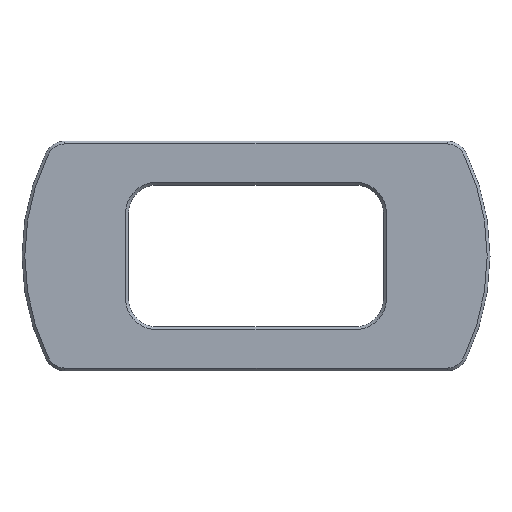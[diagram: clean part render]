
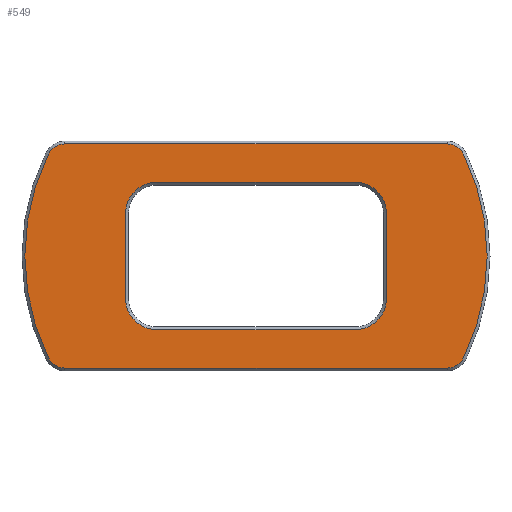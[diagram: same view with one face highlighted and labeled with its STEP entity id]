
A CAD part, top view. The second image highlights one B-rep face of the part: STEP entity #549.
In plain terms, the highlighted planar face has unit normal (0, 0, 1).
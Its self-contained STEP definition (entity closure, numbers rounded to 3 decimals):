
#40=CARTESIAN_POINT('Vertex',(-13.47,7.9,0.)) ;
#56=CARTESIAN_POINT('Vertex',(-14.637,7.172,0.)) ;
#59=CARTESIAN_POINT('Axis2P3D Location',(-13.47,6.6,0.)) ;
#87=CARTESIAN_POINT('Vertex',(-14.637,-7.172,0.)) ;
#90=CARTESIAN_POINT('Axis2P3D Location',(0.,0.,0.)) ;
#118=CARTESIAN_POINT('Vertex',(-13.47,-7.9,0.)) ;
#121=CARTESIAN_POINT('Axis2P3D Location',(-13.47,-6.6,0.)) ;
#138=CARTESIAN_POINT('Line Origine',(-8.25,-7.9,0.)) ;
#142=CARTESIAN_POINT('Vertex',(13.47,-7.9,0.)) ;
#176=CARTESIAN_POINT('Line Origine',(-8.25,7.9,0.)) ;
#180=CARTESIAN_POINT('Vertex',(13.47,7.9,0.)) ;
#449=CARTESIAN_POINT('Axis2P3D Location',(0.,0.,0.)) ;
#454=CARTESIAN_POINT('Axis2P3D Location',(13.47,-6.6,0.)) ;
#458=CARTESIAN_POINT('Vertex',(14.637,-7.172,0.)) ;
#461=CARTESIAN_POINT('Axis2P3D Location',(0.,0.,0.)) ;
#465=CARTESIAN_POINT('Vertex',(14.637,7.172,0.)) ;
#468=CARTESIAN_POINT('Axis2P3D Location',(13.47,6.6,0.)) ;
#483=CARTESIAN_POINT('Line Origine',(0.,5.2,0.)) ;
#487=CARTESIAN_POINT('Vertex',(7.,5.2,0.)) ;
#489=CARTESIAN_POINT('Vertex',(-7.,5.2,0.)) ;
#492=CARTESIAN_POINT('Axis2P3D Location',(7.,3.,0.)) ;
#496=CARTESIAN_POINT('Vertex',(9.2,3.,0.)) ;
#499=CARTESIAN_POINT('Line Origine',(9.2,0.,0.)) ;
#503=CARTESIAN_POINT('Vertex',(9.2,-3.,0.)) ;
#506=CARTESIAN_POINT('Axis2P3D Location',(7.,-3.,0.)) ;
#510=CARTESIAN_POINT('Vertex',(7.,-5.2,0.)) ;
#513=CARTESIAN_POINT('Line Origine',(0.,-5.2,0.)) ;
#517=CARTESIAN_POINT('Vertex',(-7.,-5.2,0.)) ;
#520=CARTESIAN_POINT('Axis2P3D Location',(-7.,-3.,0.)) ;
#524=CARTESIAN_POINT('Vertex',(-9.2,-3.,0.)) ;
#527=CARTESIAN_POINT('Line Origine',(-9.2,0.,0.)) ;
#531=CARTESIAN_POINT('Vertex',(-9.2,3.,0.)) ;
#534=CARTESIAN_POINT('Axis2P3D Location',(-7.,3.,0.)) ;
#140=VECTOR('Line Direction',#139,1.) ;
#178=VECTOR('Line Direction',#177,1.) ;
#485=VECTOR('Line Direction',#484,1.) ;
#501=VECTOR('Line Direction',#500,1.) ;
#515=VECTOR('Line Direction',#514,1.) ;
#529=VECTOR('Line Direction',#528,1.) ;
#60=DIRECTION('Axis2P3D Direction',(-0.,0.,1.)) ;
#91=DIRECTION('Axis2P3D Direction',(0.,0.,1.)) ;
#122=DIRECTION('Axis2P3D Direction',(0.,0.,1.)) ;
#139=DIRECTION('Vector Direction',(-1.,0.,0.)) ;
#177=DIRECTION('Vector Direction',(1.,0.,0.)) ;
#450=DIRECTION('Axis2P3D Direction',(0.,0.,1.)) ;
#451=DIRECTION('Axis2P3D XDirection',(1.,0.,0.)) ;
#455=DIRECTION('Axis2P3D Direction',(0.,0.,1.)) ;
#462=DIRECTION('Axis2P3D Direction',(0.,0.,1.)) ;
#469=DIRECTION('Axis2P3D Direction',(0.,0.,1.)) ;
#484=DIRECTION('Vector Direction',(1.,0.,0.)) ;
#493=DIRECTION('Axis2P3D Direction',(0.,0.,1.)) ;
#500=DIRECTION('Vector Direction',(0.,1.,0.)) ;
#507=DIRECTION('Axis2P3D Direction',(0.,0.,1.)) ;
#514=DIRECTION('Vector Direction',(-1.,0.,0.)) ;
#521=DIRECTION('Axis2P3D Direction',(0.,0.,1.)) ;
#528=DIRECTION('Vector Direction',(0.,1.,0.)) ;
#535=DIRECTION('Axis2P3D Direction',(0.,0.,1.)) ;
#61=AXIS2_PLACEMENT_3D('Circle Axis2P3D',#59,#60,$) ;
#92=AXIS2_PLACEMENT_3D('Circle Axis2P3D',#90,#91,$) ;
#123=AXIS2_PLACEMENT_3D('Circle Axis2P3D',#121,#122,$) ;
#452=AXIS2_PLACEMENT_3D('Plane Axis2P3D',#449,#450,#451) ;
#456=AXIS2_PLACEMENT_3D('Circle Axis2P3D',#454,#455,$) ;
#463=AXIS2_PLACEMENT_3D('Circle Axis2P3D',#461,#462,$) ;
#470=AXIS2_PLACEMENT_3D('Circle Axis2P3D',#468,#469,$) ;
#494=AXIS2_PLACEMENT_3D('Circle Axis2P3D',#492,#493,$) ;
#508=AXIS2_PLACEMENT_3D('Circle Axis2P3D',#506,#507,$) ;
#522=AXIS2_PLACEMENT_3D('Circle Axis2P3D',#520,#521,$) ;
#536=AXIS2_PLACEMENT_3D('Circle Axis2P3D',#534,#535,$) ;
#141=LINE('Line',#138,#140) ;
#179=LINE('Line',#176,#178) ;
#486=LINE('Line',#483,#485) ;
#502=LINE('Line',#499,#501) ;
#516=LINE('Line',#513,#515) ;
#530=LINE('Line',#527,#529) ;
#62=CIRCLE('generated circle',#61,1.3) ;
#93=CIRCLE('generated circle',#92,16.3) ;
#124=CIRCLE('generated circle',#123,1.3) ;
#457=CIRCLE('generated circle',#456,1.3) ;
#464=CIRCLE('generated circle',#463,16.3) ;
#471=CIRCLE('generated circle',#470,1.3) ;
#495=CIRCLE('generated circle',#494,2.2) ;
#509=CIRCLE('generated circle',#508,2.2) ;
#523=CIRCLE('generated circle',#522,2.2) ;
#537=CIRCLE('generated circle',#536,2.2) ;
#453=PLANE('',#452) ;
#548=FACE_BOUND('',#539,.T.) ;
#63=EDGE_CURVE('',#41,#57,#62,.T.) ;
#94=EDGE_CURVE('',#57,#88,#93,.T.) ;
#125=EDGE_CURVE('',#88,#119,#124,.T.) ;
#144=EDGE_CURVE('',#143,#119,#141,.T.) ;
#182=EDGE_CURVE('',#41,#181,#179,.T.) ;
#460=EDGE_CURVE('',#459,#143,#457,.F.) ;
#467=EDGE_CURVE('',#466,#459,#464,.F.) ;
#472=EDGE_CURVE('',#181,#466,#471,.F.) ;
#491=EDGE_CURVE('',#488,#490,#486,.F.) ;
#498=EDGE_CURVE('',#497,#488,#495,.T.) ;
#505=EDGE_CURVE('',#504,#497,#502,.T.) ;
#512=EDGE_CURVE('',#511,#504,#509,.T.) ;
#519=EDGE_CURVE('',#518,#511,#516,.F.) ;
#526=EDGE_CURVE('',#518,#525,#523,.F.) ;
#533=EDGE_CURVE('',#525,#532,#530,.T.) ;
#538=EDGE_CURVE('',#532,#490,#537,.F.) ;
#474=ORIENTED_EDGE('',*,*,#182,.F.) ;
#475=ORIENTED_EDGE('',*,*,#63,.T.) ;
#476=ORIENTED_EDGE('',*,*,#94,.T.) ;
#477=ORIENTED_EDGE('',*,*,#125,.T.) ;
#478=ORIENTED_EDGE('',*,*,#144,.F.) ;
#479=ORIENTED_EDGE('',*,*,#460,.F.) ;
#480=ORIENTED_EDGE('',*,*,#467,.F.) ;
#481=ORIENTED_EDGE('',*,*,#472,.F.) ;
#540=ORIENTED_EDGE('',*,*,#491,.F.) ;
#541=ORIENTED_EDGE('',*,*,#498,.F.) ;
#542=ORIENTED_EDGE('',*,*,#505,.F.) ;
#543=ORIENTED_EDGE('',*,*,#512,.F.) ;
#544=ORIENTED_EDGE('',*,*,#519,.F.) ;
#545=ORIENTED_EDGE('',*,*,#526,.T.) ;
#546=ORIENTED_EDGE('',*,*,#533,.T.) ;
#547=ORIENTED_EDGE('',*,*,#538,.T.) ;
#473=EDGE_LOOP('',(#474,#475,#476,#477,#478,#479,#480,#481)) ;
#539=EDGE_LOOP('',(#540,#541,#542,#543,#544,#545,#546,#547)) ;
#41=VERTEX_POINT('',#40) ;
#57=VERTEX_POINT('',#56) ;
#88=VERTEX_POINT('',#87) ;
#119=VERTEX_POINT('',#118) ;
#143=VERTEX_POINT('',#142) ;
#181=VERTEX_POINT('',#180) ;
#459=VERTEX_POINT('',#458) ;
#466=VERTEX_POINT('',#465) ;
#488=VERTEX_POINT('',#487) ;
#490=VERTEX_POINT('',#489) ;
#497=VERTEX_POINT('',#496) ;
#504=VERTEX_POINT('',#503) ;
#511=VERTEX_POINT('',#510) ;
#518=VERTEX_POINT('',#517) ;
#525=VERTEX_POINT('',#524) ;
#532=VERTEX_POINT('',#531) ;
#549=ADVANCED_FACE('\X2\FF8AFF9FFF70FF82\X0\ \X2\FF8EFF9EFF83FF9EFF68FF70\X0\',(#482,#548),#453,.T.) ;
#482=FACE_OUTER_BOUND('',#473,.T.) ;
